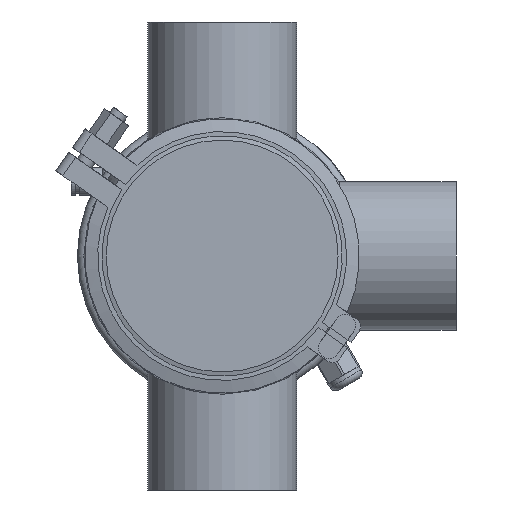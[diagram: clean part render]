
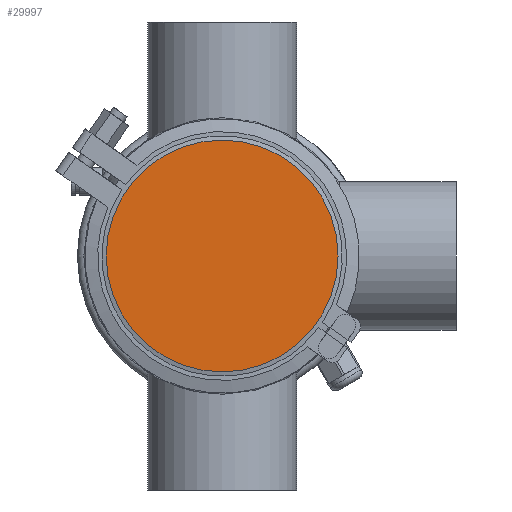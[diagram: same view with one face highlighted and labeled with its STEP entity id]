
A CAD part, front view. The second image highlights one B-rep face of the part: STEP entity #29997.
In plain terms, the highlighted planar face has unit normal (0, -1, 0).
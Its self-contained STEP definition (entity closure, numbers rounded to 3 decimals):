
#1096 = PLANE ( 'NONE',  #11690 ) ;
#3408 = EDGE_CURVE ( 'NONE', #50273, #50273, #38702, .T. ) ;
#4369 = CARTESIAN_POINT ( 'NONE',  ( 0., 0., 0. ) ) ;
#10235 = DIRECTION ( 'NONE',  ( 0., 0., 1. ) ) ;
#10995 = DIRECTION ( 'NONE',  ( 0., 0., -1. ) ) ;
#11690 = AXIS2_PLACEMENT_3D ( 'NONE', #43894, #53228, #10995 ) ;
#23258 = DIRECTION ( 'NONE',  ( 0., 1., 0. ) ) ;
#29577 = FACE_OUTER_BOUND ( 'NONE', #39791, .T. ) ;
#29997 = ADVANCED_FACE ( 'NONE', ( #29577 ), #1096, .T. ) ;
#38702 = CIRCLE ( 'NONE', #51636, 54.5 ) ;
#39791 = EDGE_LOOP ( 'NONE', ( #41060 ) ) ;
#41060 = ORIENTED_EDGE ( 'NONE', *, *, #3408, .F. ) ;
#43894 = CARTESIAN_POINT ( 'NONE',  ( -54.5, 0., 0. ) ) ;
#49670 = CARTESIAN_POINT ( 'NONE',  ( 0., 0., 54.5 ) ) ;
#50273 = VERTEX_POINT ( 'NONE', #49670 ) ;
#51636 = AXIS2_PLACEMENT_3D ( 'NONE', #4369, #23258, #10235 ) ;
#53228 = DIRECTION ( 'NONE',  ( 0., -1., 0. ) ) ;
